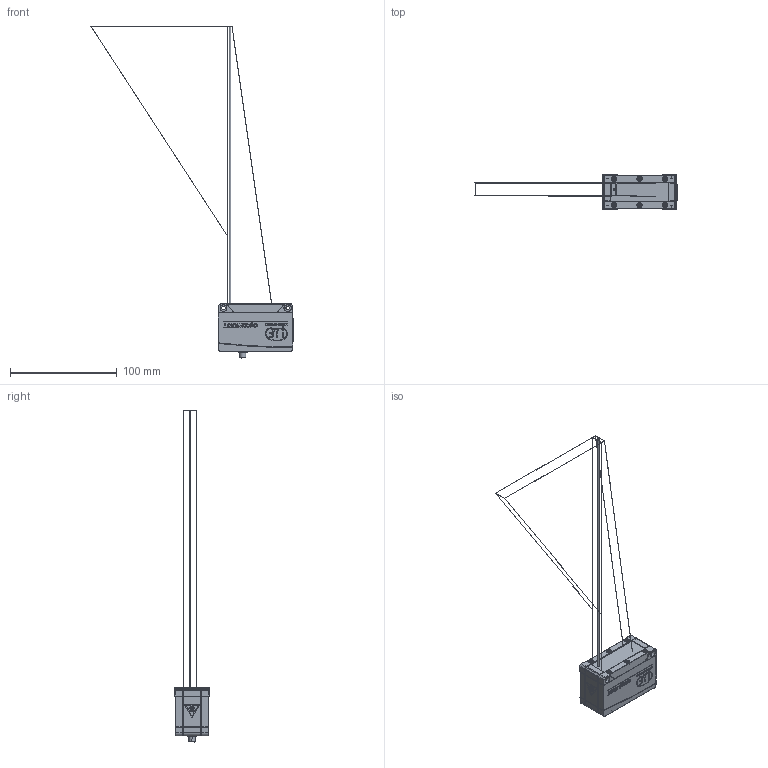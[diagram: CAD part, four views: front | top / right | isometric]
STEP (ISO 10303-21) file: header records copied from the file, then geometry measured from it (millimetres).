
FILE_DESCRIPTION (( 'STEP AP214' ), '1' );
FILE_NAME ('free_space_optoNCDT_1900-200.STEP', '2020-05-06T14:35:21', ( '' ), ( '' ), 'SwSTEP 2.0', 'SolidWorks 2018', '' );
FILE_SCHEMA (( 'AUTOMOTIVE_DESIGN' ));
Length unit declared in the file: millimetre
Products named in the file (2): free_space_optoNCDT_1900-200
Bounding box: 189.19 x 32 x 310.84 mm (x, y, z)
Volume: 96128.6 mm3; surface area: 17054.7 mm2
Topology: 4 solids, 4 shells, 2230 faces, 5826 edges, 3722 vertices
Faces by surface type: plane 964, bspline 813, cylinder 271, torus 87, cone 87, sphere 8
Entity records: 107389 total; most frequent: CARTESIAN_POINT 33911, ORIENTED_EDGE 11596, DIRECTION 7604, EDGE_CURVE 5798, VERTEX_POINT 3722, LINE 3306, VECTOR 3306, EDGE_LOOP 2382
